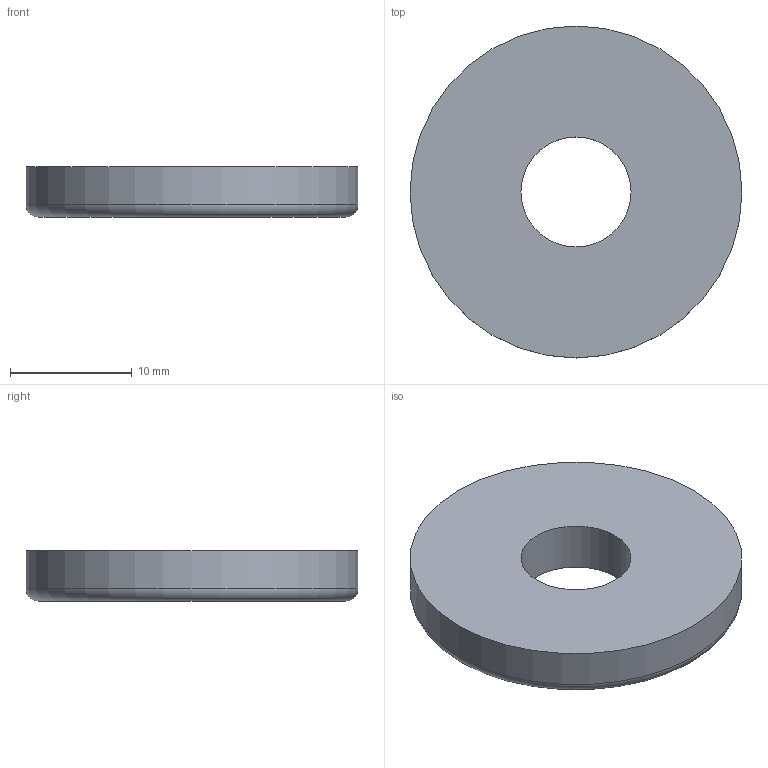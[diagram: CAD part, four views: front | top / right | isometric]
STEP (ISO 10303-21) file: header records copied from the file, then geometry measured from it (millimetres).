
FILE_DESCRIPTION(('FreeCAD Model'),'2;1');
FILE_NAME('Open CASCADE Shape Model','2026-10-09T19:41:19',(''),(''), 'Open CASCADE STEP processor 7.8','FreeCAD','Unknown');
FILE_SCHEMA(('AUTOMOTIVE_DESIGN { 1 0 10303 214 1 1 1 1 }'));
Length unit declared in the file: millimetre
Products named in the file (1): Body
Bounding box: 27.28 x 27.28 x 4.12 mm (x, y, z)
Volume: 2124.4 mm3; surface area: 1473.1 mm2
Topology: 1 solids, 1 shells, 5 faces, 8 edges, 5 vertices
Faces by surface type: cylinder 2, plane 2, torus 1
Full cylindrical faces by diameter (mm): 9.042 x1, 27.278 x1
Entity records: 146 total; most frequent: DIRECTION 26, CARTESIAN_POINT 19, ORIENTED_EDGE 16, AXIS2_PLACEMENT_3D 12, EDGE_CURVE 8, FACE_BOUND 7, EDGE_LOOP 7, CIRCLE 6
